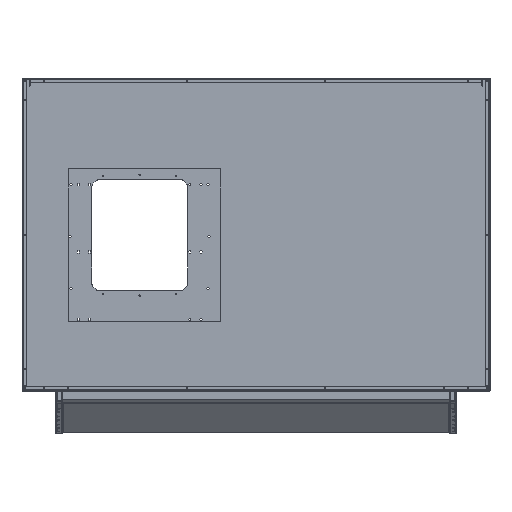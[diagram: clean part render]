
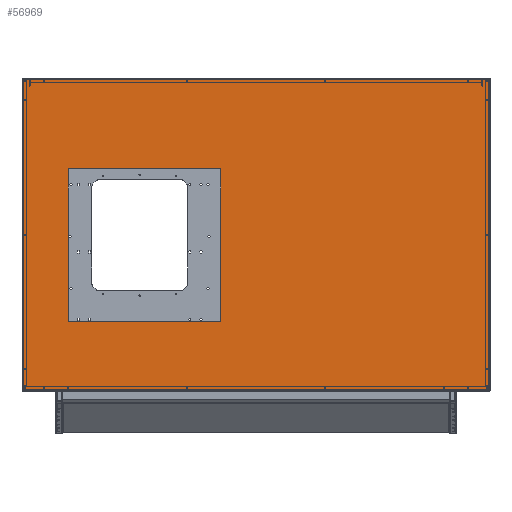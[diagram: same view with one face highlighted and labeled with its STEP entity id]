
A CAD part, top view. The second image highlights one B-rep face of the part: STEP entity #56969.
In plain terms, the highlighted planar face has unit normal (0, 0, 1).
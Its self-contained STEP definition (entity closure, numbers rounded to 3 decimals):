
#11182=ORIENTED_EDGE('',*,*,#24826,.F.);
#11183=ORIENTED_EDGE('',*,*,#24827,.F.);
#11184=ORIENTED_EDGE('',*,*,#24828,.F.);
#11185=ORIENTED_EDGE('',*,*,#24829,.F.);
#11186=ORIENTED_EDGE('',*,*,#24830,.T.);
#11187=ORIENTED_EDGE('',*,*,#24831,.F.);
#11188=ORIENTED_EDGE('',*,*,#24832,.F.);
#11189=ORIENTED_EDGE('',*,*,#24833,.F.);
#24826=EDGE_CURVE('',#32201,#32202,#37882,.T.);
#24827=EDGE_CURVE('',#32203,#32201,#37883,.T.);
#24828=EDGE_CURVE('',#32204,#32203,#37884,.T.);
#24829=EDGE_CURVE('',#32202,#32204,#37885,.T.);
#24830=EDGE_CURVE('',#32205,#32206,#37886,.T.);
#24831=EDGE_CURVE('',#32207,#32206,#37887,.F.);
#24832=EDGE_CURVE('',#32208,#32207,#37888,.T.);
#24833=EDGE_CURVE('',#32205,#32208,#37889,.T.);
#32201=VERTEX_POINT('',#88941);
#32202=VERTEX_POINT('',#88942);
#32203=VERTEX_POINT('',#88944);
#32204=VERTEX_POINT('',#88946);
#32205=VERTEX_POINT('',#88949);
#32206=VERTEX_POINT('',#88950);
#32207=VERTEX_POINT('',#88952);
#32208=VERTEX_POINT('',#88954);
#37882=LINE('',#88940,#43128);
#37883=LINE('',#88943,#43129);
#37884=LINE('',#88945,#43130);
#37885=LINE('',#88947,#43131);
#37886=LINE('',#88948,#43132);
#37887=LINE('',#88951,#43133);
#37888=LINE('',#88953,#43134);
#37889=LINE('',#88955,#43135);
#43128=VECTOR('',#72021,1000.);
#43129=VECTOR('',#72022,1000.);
#43130=VECTOR('',#72023,1000.);
#43131=VECTOR('',#72024,1000.);
#43132=VECTOR('',#72025,1000.);
#43133=VECTOR('',#72026,1000.);
#43134=VECTOR('',#72027,1000.);
#43135=VECTOR('',#72028,1000.);
#47796=EDGE_LOOP('',(#11182,#11183,#11184,#11185));
#47797=EDGE_LOOP('',(#11186,#11187,#11188,#11189));
#51862=FACE_BOUND('',#47796,.T.);
#51863=FACE_BOUND('',#47797,.T.);
#54931=PLANE('',#62128);
#56969=ADVANCED_FACE('',(#51862,#51863),#54931,.F.);
#62128=AXIS2_PLACEMENT_3D('',#88939,#72019,#72020);
#72019=DIRECTION('',(0.,0.,-1.));
#72020=DIRECTION('',(-1.,0.,0.));
#72021=DIRECTION('',(1.,0.,0.));
#72022=DIRECTION('',(0.,-1.,0.));
#72023=DIRECTION('',(-1.,0.,0.));
#72024=DIRECTION('',(0.,1.,0.));
#72025=DIRECTION('',(1.,0.,0.));
#72026=DIRECTION('',(0.,1.,0.));
#72027=DIRECTION('',(1.,0.,0.));
#72028=DIRECTION('',(0.,1.,0.));
#88939=CARTESIAN_POINT('',(0.,0.,0.));
#88940=CARTESIAN_POINT('',(-614.81,-284.81,0.));
#88941=CARTESIAN_POINT('',(-614.81,-284.81,0.));
#88942=CARTESIAN_POINT('',(-114.81,-284.81,0.));
#88943=CARTESIAN_POINT('',(-614.81,215.19,0.));
#88944=CARTESIAN_POINT('',(-614.81,215.19,0.));
#88945=CARTESIAN_POINT('',(-114.81,215.19,0.));
#88946=CARTESIAN_POINT('',(-114.81,215.19,0.));
#88947=CARTESIAN_POINT('',(-114.81,-284.81,0.));
#88948=CARTESIAN_POINT('',(-765.398,-511.398,0.));
#88949=CARTESIAN_POINT('',(-765.398,-511.398,0.));
#88950=CARTESIAN_POINT('',(765.398,-511.398,0.));
#88951=CARTESIAN_POINT('',(765.398,511.398,0.));
#88952=CARTESIAN_POINT('',(765.398,511.398,0.));
#88953=CARTESIAN_POINT('',(-765.398,511.398,0.));
#88954=CARTESIAN_POINT('',(-765.398,511.398,0.));
#88955=CARTESIAN_POINT('',(-765.398,-511.398,0.));
